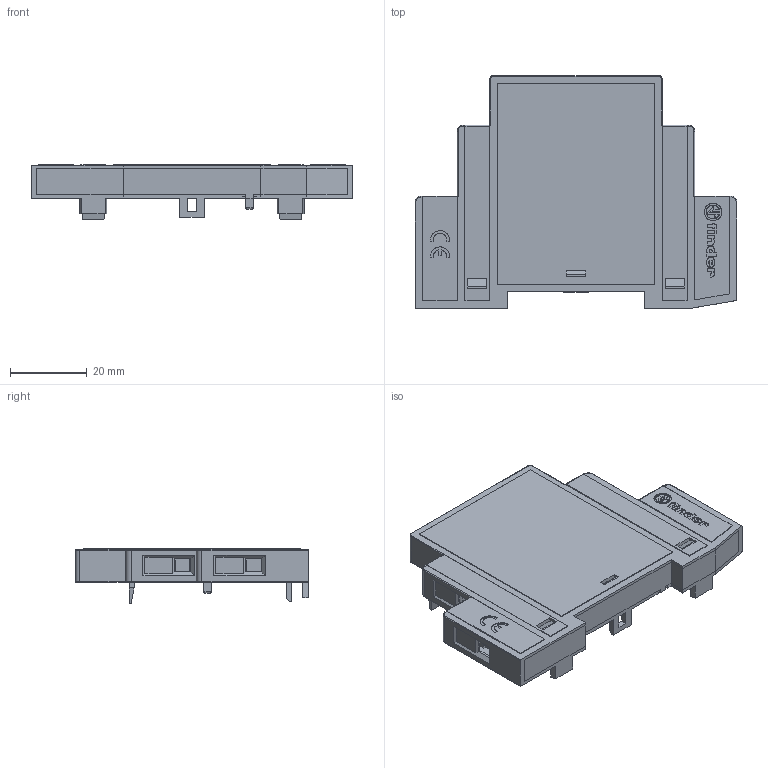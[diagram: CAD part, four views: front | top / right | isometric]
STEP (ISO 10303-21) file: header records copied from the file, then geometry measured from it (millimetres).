
FILE_DESCRIPTION(('STEP AP214'),'2;1');
FILE_NAME('022_33-35.stp','2010-06-15T16:58:06',(''),(''),'2007.1.106','THINKDESIGN','');
FILE_SCHEMA(('AUTOMOTIVE_DESIGN'));
Products named in the file (1): None
Bounding box: 84 x 60.8 x 14.25 mm (x, y, z)
Surface area: 14192.6 mm2 (no closed solid volume)
Topology: 0 solids, 0 shells, 816 faces, 4347 edges, 4292 vertices
Faces by surface type: plane 626, cylinder 97, bspline 93
Full cylindrical faces by diameter (mm): 2.3 x4, 2.4 x4, 2.5 x4, 3 x4, 4.6 x4, 5 x4
Entity records: 48250 total; most frequent: CARTESIAN_POINT 16224, DIRECTION 5425, COMPOSITE_CURVE_SEGMENT 4346, TRIMMED_CURVE 3743, VECTOR 3579, LINE 3579, AXIS2_PLACEMENT_3D 923, OUTER_BOUNDARY_CURVE 816
